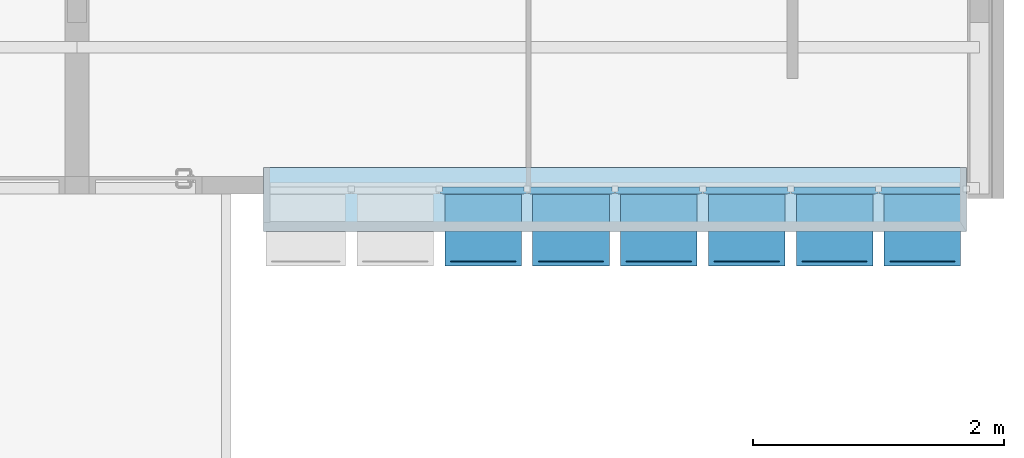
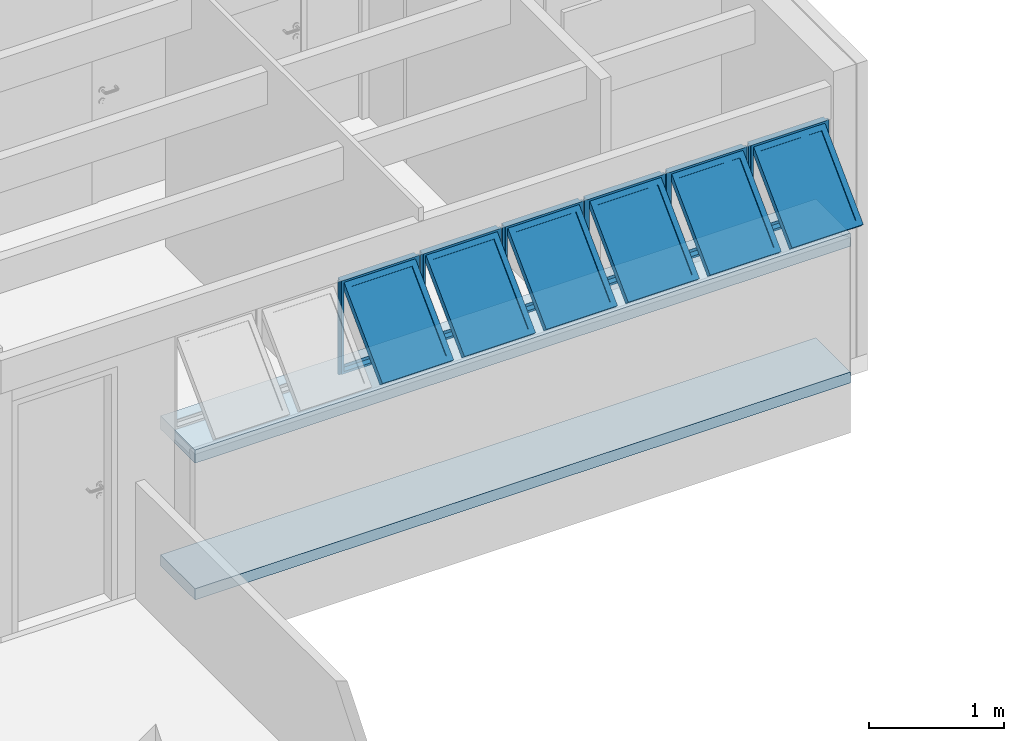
# One storey, part 13 of 40: 6 plates, 2 slabs, 1 element without a shape of its own.
"""IFC4 building model written with IfcOpenShell, lengths in millimetres."""

import ifcopenshell
import ifcopenshell.guid

model = None  # the IFC model being written
_history = None  # IfcOwnerHistory: only IFC2X3 demands one
_inside = {}  # id of a spatial element -> (the spatial element, [elements in it])
_under = {}  # id of a project, library or spatial element -> (it, [spatial elements below it])
_declared = {}  # id of a project -> (the project, [libraries it declares])
_typed = {}  # id of a type object -> (the type object, [elements of that type])
_made_of = {}  # id of a material, layer set ... -> (it, [elements and type objects made of it])


def new_model(schema):
    """Start an empty IFC model of exactly this schema.

    Asked for "IFC4X3", IfcOpenShell would pick the latest addendum, in which some entities
    have other attributes; the version numbers below select the first issue.
    IFC2X3 requires an IfcOwnerHistory on every rooted entity: one is made here for all.
    """
    global model, _history
    if schema == "IFC4X3":
        model = ifcopenshell.file(schema_version=(4, 3, 0, 0))
    else:
        model = ifcopenshell.file(schema=schema)
    _inside.clear()
    _under.clear()
    _declared.clear()
    _typed.clear()
    _made_of.clear()
    _history = None
    if model.schema == "IFC2X3":
        org = make("IfcOrganization", Name="unknown")
        user = make(
            "IfcPersonAndOrganization",
            ThePerson=make("IfcPerson", FamilyName="unknown"),
            TheOrganization=org,
        )
        app = make(
            "IfcApplication",
            ApplicationDeveloper=org,
            Version="unknown",
            ApplicationFullName="unknown",
            ApplicationIdentifier="unknown",
        )
        _history = make(
            "IfcOwnerHistory",
            OwningUser=user,
            OwningApplication=app,
            ChangeAction="ADDED",
            CreationDate=0,
        )
    return model


def make(cls, **values):
    """One entity of the class cls with the attributes given. An attribute that is None is left unset."""
    return model.create_entity(
        cls, **{name: value for name, value in values.items() if value is not None}
    )


def entity(cls, *values):
    """Any entity or typed value of the class cls, its attributes in the order of the schema. None: left unset."""
    e = model.create_entity(cls)
    for i, value in enumerate(values):
        if value is not None:
            e[i] = value
    return e


def rooted(cls, **values):
    """An entity with a GlobalId (a new one), such as an element, a storey or a relation."""
    return make(cls, GlobalId=ifcopenshell.guid.new(), OwnerHistory=_history, **values)


def si_unit(unit_type, name, prefix=None):
    """IfcSIUnit, for example si_unit("LENGTHUNIT", "METRE", prefix="MILLI")."""
    return make("IfcSIUnit", UnitType=unit_type, Prefix=prefix, Name=name)


def converted_unit(unit_type, name, factor, base, dimensions=None, offset=None):
    """IfcConversionBasedUnit, such as the inch: factor (a typed value) times the base unit."""
    return make(
        "IfcConversionBasedUnit"
        if offset is None
        else "IfcConversionBasedUnitWithOffset",
        ConversionOffset=offset,
        Dimensions=None
        if dimensions is None
        else entity("IfcDimensionalExponents", *dimensions),
        UnitType=unit_type,
        Name=name,
        ConversionFactor=make(
            "IfcMeasureWithUnit", ValueComponent=factor, UnitComponent=base
        ),
    )


def derived_unit(unit_type, elements):
    """IfcDerivedUnit: a product of units, each with its exponent."""
    return make(
        "IfcDerivedUnit",
        Elements=[
            make("IfcDerivedUnitElement", Unit=unit, Exponent=power)
            for unit, power in elements
        ],
        UnitType=unit_type,
    )


def assignment(units):
    """IfcUnitAssignment: the units of a project."""
    return None if units is None else make("IfcUnitAssignment", Units=units)


def point(xyz):
    """IfcCartesianPoint."""
    return None if xyz is None else make("IfcCartesianPoint", Coordinates=xyz)


def direction(xyz):
    """IfcDirection."""
    return None if xyz is None else make("IfcDirection", DirectionRatios=xyz)


def frame(location, z_axis=None, x_axis=None):
    """IfcAxis2Placement3D, a coordinate frame: its origin and axes. An axis left out is left unset."""
    return make(
        "IfcAxis2Placement3D",
        Location=point(location),
        Axis=direction(z_axis),
        RefDirection=direction(x_axis),
    )


def origin_with_axes():
    """The frame at (0, 0, 0) with the z axis (0, 0, 1) and the x axis (1, 0, 0) written out."""
    return frame((0.0, 0.0, 0.0), z_axis=(0.0, 0.0, 1.0), x_axis=(1.0, 0.0, 0.0))


def place(relative_to, where):
    """IfcLocalPlacement: puts the frame where relative to a parent placement (None: the world)."""
    return make(
        "IfcLocalPlacement", PlacementRelTo=relative_to, RelativePlacement=where
    )


def context(
    kind, dimensions, precision=None, world=None, true_north=None, identifier=None
):
    """IfcGeometricRepresentationContext, for example the 3D "Model" context."""
    return make(
        "IfcGeometricRepresentationContext",
        ContextIdentifier=identifier,
        ContextType=kind,
        CoordinateSpaceDimension=dimensions,
        Precision=precision,
        WorldCoordinateSystem=world,
        TrueNorth=true_north,
    )


def subcontext(parent, identifier, kind, view, scale=None):
    """IfcGeometricRepresentationSubContext, for example "Body" below "Model"."""
    return make(
        "IfcGeometricRepresentationSubContext",
        ContextIdentifier=identifier,
        ContextType=kind,
        ParentContext=parent,
        TargetScale=scale,
        TargetView=view,
    )


def project(units=None, contexts=None):
    """IfcProject with its units and contexts."""
    return rooted(
        "IfcProject",
        Name="project",
        RepresentationContexts=contexts,
        UnitsInContext=assignment(units),
    )


def spatial(cls, under=None, at=None, **own):
    """A site, building, storey or space (cls), placed at a placement, below another one or the project."""
    s = rooted(cls, ObjectPlacement=at, **own)
    if under is not None:
        _under.setdefault(under.id(), (under, []))[1].append(s)
    return s


def point_list(points):
    """IfcCartesianPointList2D or 3D."""
    cls = (
        "IfcCartesianPointList2D" if len(points[0]) == 2 else "IfcCartesianPointList3D"
    )
    return make(cls, CoordList=points)


def line(*indices):
    """IfcLineIndex: a straight run through numbered points of an indexed curve."""
    return model.create_entity("IfcLineIndex", indices)


def indexed_curve(points, segments=None, self_intersect=None):
    """IfcIndexedPolyCurve: lines and arcs through numbered points (the first is 1)."""
    return make(
        "IfcIndexedPolyCurve",
        Points=point_list(points),
        Segments=segments,
        SelfIntersect=self_intersect,
    )


def outline(outer, holes=None, kind="AREA"):
    """IfcArbitraryClosedProfileDef: a profile drawn as a closed curve; with holes, ...WithVoids."""
    if holes is None:
        return make("IfcArbitraryClosedProfileDef", ProfileType=kind, OuterCurve=outer)
    return make(
        "IfcArbitraryProfileDefWithVoids",
        ProfileType=kind,
        OuterCurve=outer,
        InnerCurves=holes,
    )


def extrude(swept, where, along, depth):
    """IfcExtrudedAreaSolid: the profile swept, set in the frame where, extruded along a direction by depth."""
    return make(
        "IfcExtrudedAreaSolid",
        SweptArea=swept,
        Position=where,
        ExtrudedDirection=direction(along),
        Depth=depth,
    )


def polygons(points, faces, closed=None, point_numbers=None):
    """IfcPolygonalFaceSet: a face is its outer loop, then its inner loops; points numbered from 1."""
    made = []
    for loops in faces:
        if len(loops) == 1:
            made.append(make("IfcIndexedPolygonalFace", CoordIndex=loops[0]))
        else:
            made.append(
                make(
                    "IfcIndexedPolygonalFaceWithVoids",
                    CoordIndex=loops[0],
                    InnerCoordIndices=loops[1:],
                )
            )
    return make(
        "IfcPolygonalFaceSet",
        Coordinates=point_list(points),
        Closed=closed,
        Faces=made,
        PnIndex=point_numbers,
    )


def shape(context_of_items, identifier, shape_type, items):
    """IfcShapeRepresentation: the items that make up one representation, for example the "Body"."""
    return make(
        "IfcShapeRepresentation",
        ContextOfItems=context_of_items,
        RepresentationIdentifier=identifier,
        RepresentationType=shape_type,
        Items=items,
    )


def source(mapping_origin, context_of_items, identifier, shape_type, items):
    """IfcRepresentationMap: a shape defined once, which mapped items show again and again."""
    return make(
        "IfcRepresentationMap",
        MappingOrigin=mapping_origin,
        MappedRepresentation=shape(context_of_items, identifier, shape_type, items),
    )


def transform(
    local_origin,
    x_axis=None,
    y_axis=None,
    z_axis=None,
    scale=None,
    scale2=None,
    scale3=None,
    uniform=True,
):
    """IfcCartesianTransformationOperator3D, or its non-uniform kind. x_axis, y_axis, z_axis: its Axis1, 2, 3."""
    if uniform:
        return make(
            "IfcCartesianTransformationOperator3D",
            Axis1=direction(x_axis),
            Axis2=direction(y_axis),
            LocalOrigin=point(local_origin),
            Scale=scale,
            Axis3=direction(z_axis),
        )
    return make(
        "IfcCartesianTransformationOperator3DnonUniform",
        Axis1=direction(x_axis),
        Axis2=direction(y_axis),
        LocalOrigin=point(local_origin),
        Scale=scale,
        Axis3=direction(z_axis),
        Scale2=scale2,
        Scale3=scale3,
    )


def mapped(mapping_source, mapping_target):
    """IfcMappedItem: shows the shape of a source again, moved by a transform."""
    return make(
        "IfcMappedItem", MappingSource=mapping_source, MappingTarget=mapping_target
    )


def material(Name=None, Category=None):
    """IfcMaterial."""
    return make("IfcMaterial", Name=Name, Category=Category)


def layer(
    of_material, thickness, ventilated=None, Name=None, Category=None, Priority=None
):
    """IfcMaterialLayer: one layer of a wall or slab, of a material (None: an air gap)."""
    return make(
        "IfcMaterialLayer",
        Material=of_material,
        LayerThickness=thickness,
        IsVentilated=ventilated,
        Name=Name,
        Category=Category,
        Priority=Priority,
    )


def layer_set(layers, Name=None):
    """IfcMaterialLayerSet."""
    return make("IfcMaterialLayerSet", MaterialLayers=layers, LayerSetName=Name)


def layer_usage(for_layer_set, set_direction, sense, offset, extent=None):
    """IfcMaterialLayerSetUsage: how a layer set lies in its element."""
    return make(
        "IfcMaterialLayerSetUsage",
        ForLayerSet=for_layer_set,
        LayerSetDirection=set_direction,
        DirectionSense=sense,
        OffsetFromReferenceLine=offset,
        ReferenceExtent=extent,
    )


def constituent(of_material, Name=None, Category=None, fraction=None):
    """IfcMaterialConstituent: one of the materials an element consists of."""
    return make(
        "IfcMaterialConstituent",
        Name=Name,
        Material=of_material,
        Fraction=fraction,
        Category=Category,
    )


def constituent_set(constituents=None, Name=None):
    """IfcMaterialConstituentSet."""
    return make(
        "IfcMaterialConstituentSet", Name=Name, MaterialConstituents=constituents
    )


def made_of(thing, what):
    """Note that an element or type object is made of a material, layer set ...; save() writes the relation."""
    if what is not None:
        _made_of.setdefault(what.id(), (what, []))[1].append(thing)
    return thing


def type_object(cls, material=None, **own):
    """A type object (cls), such as IfcWallType, which elements share."""
    return made_of(rooted(cls, **own), material)


def element(
    cls,
    number,
    at=None,
    inside=None,
    cuts=None,
    type_object=None,
    material=None,
    context=None,
    identifier="Body",
    shape_type=None,
    held_by="IfcProductDefinitionShape",
    body=None,
    shapes=None,
    **own,
):
    """One element of the class cls, such as IfcWall. Its Tag is "e" and its number.

    at: its placement. inside: the storey or other place that contains it. cuts: it is an
    opening in that element (IfcRelVoidsElement). A single representation is given by context,
    identifier, shape_type and body (its items); several are given by shapes. held_by: the class
    of the entity that holds the representations. save() writes the other relations.
    """
    e = rooted(cls, Tag="e%d" % number, ObjectPlacement=at, **own)
    if body is not None:
        shapes = [shape(context, identifier, shape_type, body)]
    if shapes is not None:
        e.Representation = make(held_by, Representations=shapes)
    if inside is not None:
        _inside.setdefault(inside.id(), (inside, []))[1].append(e)
    if cuts is not None:
        rooted(
            "IfcRelVoidsElement", RelatingBuildingElement=cuts, RelatedOpeningElement=e
        )
    if type_object is not None:
        _typed.setdefault(type_object.id(), (type_object, []))[1].append(e)
    return made_of(e, material)


def aggregate(whole, parts):
    """IfcRelAggregates: a whole, such as a stair, and the parts it consists of."""
    return rooted("IfcRelAggregates", RelatingObject=whole, RelatedObjects=parts)


def save(model, path):
    """Write the relations noted so far, then the file.

    IfcRelAggregates (storeys below a building ...), IfcRelContainedInSpatialStructure (elements
    in a storey), IfcRelDefinesByType, IfcRelAssociatesMaterial and IfcRelDeclares: one each for
    every whole, place, type object, material and project.
    """
    for whole, parts in _under.values():
        aggregate(whole, parts)
    for where, things in _inside.values():
        rooted(
            "IfcRelContainedInSpatialStructure",
            RelatedElements=things,
            RelatingStructure=where,
        )
    for kind, things in _typed.values():
        rooted("IfcRelDefinesByType", RelatedObjects=things, RelatingType=kind)
    for what, things in _made_of.values():
        rooted("IfcRelAssociatesMaterial", RelatedObjects=things, RelatingMaterial=what)
    for by, libraries in _declared.values():
        rooted("IfcRelDeclares", RelatingContext=by, RelatedDefinitions=libraries)
    model.write(path)


model = new_model("IFC4")

# Units and contexts
model_context = context("Model", 3, precision=0.01, world=origin_with_axes(), true_north=direction((0.0, 1.0)))
body_context = subcontext(model_context, "Body", "Model", "MODEL_VIEW")
ifc_project = project(units=[si_unit("LENGTHUNIT", "METRE", prefix="MILLI"), si_unit("AREAUNIT", "SQUARE_METRE"), si_unit("VOLUMEUNIT", "CUBIC_METRE"), converted_unit("PLANEANGLEUNIT", "DEGREE", entity("IfcPlaneAngleMeasure", 0.0174532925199), si_unit("PLANEANGLEUNIT", "RADIAN"), dimensions=[0, 0, 0, 0, 0, 0, 0]), converted_unit("TIMEUNIT", "Year", entity("IfcTimeMeasure", 31556926.0), si_unit("TIMEUNIT", "SECOND"), dimensions=[0, 0, 1, 0, 0, 0, 0]), si_unit("MASSUNIT", "GRAM", prefix="KILO"), si_unit("THERMODYNAMICTEMPERATUREUNIT", "DEGREE_CELSIUS"), si_unit("LUMINOUSINTENSITYUNIT", "LUMEN"), si_unit("ENERGYUNIT", "JOULE", prefix="MEGA"), derived_unit("THERMALCONDUCTANCEUNIT", [(si_unit("POWERUNIT", "WATT"), 1), (si_unit("LENGTHUNIT", "METRE"), -1), (si_unit("THERMODYNAMICTEMPERATUREUNIT", "KELVIN"), -1)]), derived_unit("SPECIFICHEATCAPACITYUNIT", [(si_unit("ENERGYUNIT", "JOULE"), 1), (si_unit("MASSUNIT", "GRAM", prefix="KILO"), -1), (si_unit("THERMODYNAMICTEMPERATUREUNIT", "KELVIN"), -1)]), derived_unit("MASSDENSITYUNIT", [(si_unit("MASSUNIT", "GRAM", prefix="KILO"), 1), (si_unit("VOLUMEUNIT", "CUBIC_METRE"), -1)])], contexts=[model_context])

# Site, building, storey
site_placement = place(None, origin_with_axes())
site = spatial("IfcSite", under=ifc_project, at=site_placement, Name="Local", CompositionType="ELEMENT")
building_placement = place(site_placement, origin_with_axes())
building = spatial("IfcBuilding", under=site, at=building_placement, Name="Construção", CompositionType="ELEMENT")
storey_placement = place(building_placement, frame((0.0, 0.0, 5300.0), z_axis=(0.0, 0.0, 1.0), x_axis=(1.0, 0.0, 0.0)))
storey = spatial("IfcBuildingStorey", under=building, at=storey_placement, Name="Terceiro Pavimento", CompositionType="ELEMENT", Elevation=5300.0)

# Slabs
ifc_material_1 = material(Name="Concreto Armado Moldado in Loco - Estrutural")
ifc_layer_1 = layer(ifc_material_1, 120.0, ventilated="UNKNOWN", Name="Concreto Armado Moldado in Loco - Estrutural")
ifc_layer_set_1 = layer_set([ifc_layer_1], Name="Concreto Armado Moldado in Loco - Estrutural 120")
ifc_layer_usage_1 = layer_usage(ifc_layer_set_1, "AXIS3", "NEGATIVE", 120.0)
slab_type_1 = type_object("IfcSlabType", Name="Concreto Armado Moldado in Loco - Estrutural 120", PredefinedType="FLOOR")
slab_1_placement = place(storey_placement, frame((14470.0, 17595.0000013, 1355.0), z_axis=(0.0, 0.0, 1.0), x_axis=(1.0, 0.0, 0.0)))
element("IfcSlab", 1, at=slab_1_placement, inside=storey, type_object=slab_type_1, material=ifc_layer_usage_1, Name="APTO12-LAJE-003", PredefinedType="FLOOR", context=body_context, shape_type="SweptSolid", body=[
    extrude(outline(indexed_curve([(0.0, 0.0), (0.0, 510.0), (-5600.0, 510.0), (-5600.0, 0.0)], segments=[line(1, 2, 3, 4, 1)])), frame((0.0, 0.0, -120.0), z_axis=(0.0, 0.0, 1.0), x_axis=(1.0, 0.0, 0.0)), (0.0, 0.0, 1.0), 120.0),
])
ifc_layer_2 = layer(ifc_material_1, 100.0, ventilated="UNKNOWN", Name="Concreto Armado Moldado in Loco - Estrutural")
ifc_layer_set_2 = layer_set([ifc_layer_2], Name="Concreto Armado Moldado in Loco - Estrutural 100")
ifc_layer_usage_2 = layer_usage(ifc_layer_set_2, "AXIS3", "NEGATIVE", 100.0)
slab_type_2 = type_object("IfcSlabType", Name="Concreto Armado Moldado in Loco - Estrutural 100", PredefinedType="FLOOR")
slab_2_placement = place(storey_placement, frame((14470.0, 17595.0000013, 100.0), z_axis=(0.0, 0.0, 1.0), x_axis=(1.0, 0.0, 0.0)))
element("IfcSlab", 2, at=slab_2_placement, inside=storey, type_object=slab_type_2, material=ifc_layer_usage_2, Name="APTO12-LAJE-004", PredefinedType="FLOOR", context=body_context, shape_type="SweptSolid", body=[
    extrude(outline(indexed_curve([(0.0, 0.0), (0.0, 510.0), (-5600.0, 510.0), (-5600.0, 0.0)], segments=[line(1, 2, 3, 4, 1)])), frame((0.0, 0.0, -100.0), z_axis=(0.0, 0.0, 1.0), x_axis=(1.0, 0.0, 0.0)), (0.0, 0.0, 1.0), 100.0),
])

# Window, plates
window_type = type_object("IfcWindowType", Name="Tipo de Parede Cortina", PartitioningType="NOTDEFINED", PredefinedType="NOTDEFINED")
window_placement = place(storey_placement, frame((12020.0, 17910.0, 1355.00007107), z_axis=(0.0, 0.0, 1.0), x_axis=(1.0, 0.0, 0.0)))
window = element("IfcWindow", 3, at=window_placement, inside=storey, type_object=window_type, Name="APTO12-JANELA-000", PredefinedType="NOTDEFINED")
ifc_material_2 = material(Name="Alumínio")
ifc_constituent_1 = constituent(ifc_material_2, Name="Alumínio")
ifc_material_3 = material(Name="Vidro")
ifc_constituent_2 = constituent(ifc_material_3, Name="Vidro")
ifc_constituent_set_1 = constituent_set(constituents=[ifc_constituent_1, ifc_constituent_2])
plate_type = type_object("IfcPlateType", Name="Painel Principal 690 x 845 x 20", PredefinedType="CURTAIN_PANEL")
shared_shape_1 = source(origin_with_axes(), body_context, "Body", "Tessellation", [
    polygons([(-25.0000036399, 0.0, -40.0), (-25.0000036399, 0.0, -35.0), (-674.999997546, 0.0, -35.0), (-674.999997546, 0.0, -40.0), (-70.0000036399, 45.0, -40.0), (-70.0000036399, 45.0, -35.0), (-629.999997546, 45.0, -35.0), (-629.999997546, 45.0, -40.0)], [[[1, 2, 3, 4]], [[5, 6, 2, 1]], [[2, 6, 7, 3]], [[4, 3, 7, 8]], [[1, 4, 8, 5]], [[8, 7, 6, 5]]], closed=True),
    polygons([(-674.999997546, 0.0, -40.0), (-674.999997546, 0.0, -35.0), (-674.999997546, 844.999891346, -35.0), (-674.999997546, 844.999891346, -40.0), (-629.999997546, 45.0, -40.0), (-629.999997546, 45.0, -35.0), (-629.999997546, 799.999891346, -35.0), (-629.999997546, 799.999891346, -40.0)], [[[1, 2, 3, 4]], [[5, 6, 2, 1]], [[2, 6, 7, 3]], [[4, 3, 7, 8]], [[1, 4, 8, 5]], [[8, 7, 6, 5]]], closed=True),
    polygons([(-25.0000036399, 844.999891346, -40.0), (-25.0000036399, 844.999891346, -35.0), (-70.0000036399, 799.999891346, -35.0), (-70.0000036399, 799.999891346, -40.0), (-674.999997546, 844.999891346, -40.0), (-674.999997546, 844.999891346, -35.0), (-629.999997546, 799.999891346, -35.0), (-629.999997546, 799.999891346, -40.0)], [[[1, 2, 3, 4]], [[5, 6, 2, 1]], [[2, 6, 7, 3]], [[4, 3, 7, 8]], [[1, 4, 8, 5]], [[8, 7, 6, 5]]], closed=True),
    polygons([(-25.0000036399, 0.0, -40.0), (-25.0000036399, 0.0, -35.0), (-70.0000036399, 45.0, -35.0), (-70.0000036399, 45.0, -40.0), (-25.0000036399, 844.999891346, -40.0), (-25.0000036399, 844.999891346, -35.0), (-70.0000036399, 799.999891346, -35.0), (-70.0000036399, 799.999891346, -40.0)], [[[1, 2, 3, 4]], [[5, 6, 2, 1]], [[2, 6, 7, 3]], [[4, 3, 7, 8]], [[1, 4, 8, 5]], [[8, 7, 6, 5]]], closed=True),
    polygons([(-25.0000036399, 0.0, -35.0), (-25.0000036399, 0.0, 15.0), (-674.999997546, 0.0, 15.0), (-674.999997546, 0.0, -35.0), (-45.0000036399, 20.0, -35.0), (-45.0000036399, 20.0, 15.0), (-654.999997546, 20.0, 15.0), (-654.999997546, 20.0, -35.0)], [[[1, 2, 3, 4]], [[5, 6, 2, 1]], [[2, 6, 7, 3]], [[4, 3, 7, 8]], [[1, 4, 8, 5]], [[8, 7, 6, 5]]], closed=True),
    polygons([(-674.999997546, 0.0, -35.0), (-674.999997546, 0.0, 15.0), (-674.999997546, 844.999891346, 15.0), (-674.999997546, 844.999891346, -35.0), (-654.999997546, 20.0, -35.0), (-654.999997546, 20.0, 15.0), (-654.999997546, 824.999891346, 15.0), (-654.999997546, 824.999891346, -35.0)], [[[1, 2, 3, 4]], [[5, 6, 2, 1]], [[2, 6, 7, 3]], [[4, 3, 7, 8]], [[1, 4, 8, 5]], [[8, 7, 6, 5]]], closed=True),
    polygons([(-25.0000036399, 844.999891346, -35.0), (-25.0000036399, 844.999891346, 15.0), (-45.0000036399, 824.999891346, 15.0), (-45.0000036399, 824.999891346, -35.0), (-674.999997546, 844.999891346, -35.0), (-674.999997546, 844.999891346, 15.0), (-654.999997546, 824.999891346, 15.0), (-654.999997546, 824.999891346, -35.0)], [[[1, 2, 3, 4]], [[5, 6, 2, 1]], [[2, 6, 7, 3]], [[4, 3, 7, 8]], [[1, 4, 8, 5]], [[8, 7, 6, 5]]], closed=True),
    polygons([(-25.0000036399, 0.0, -35.0), (-25.0000036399, 0.0, 15.0), (-45.0000036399, 20.0, 15.0), (-45.0000036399, 20.0, -35.0), (-25.0000036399, 844.999891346, -35.0), (-25.0000036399, 844.999891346, 15.0), (-45.0000036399, 824.999891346, 15.0), (-45.0000036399, 824.999891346, -35.0)], [[[1, 2, 3, 4]], [[5, 6, 2, 1]], [[2, 6, 7, 3]], [[4, 3, 7, 8]], [[1, 4, 8, 5]], [[8, 7, 6, 5]]], closed=True),
    polygons([(-694.999995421, 0.0, -10.0), (-694.999995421, 0.0, 10.0), (-694.999995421, 844.999891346, 10.0), (-694.999995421, 844.999891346, -10.0), (-674.999997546, 0.0, -10.0), (-674.999997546, 0.0, 10.0), (-674.999997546, 844.999891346, 10.0), (-674.999997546, 844.999891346, -10.0)], [[[1, 2, 3, 4]], [[5, 6, 2, 1]], [[2, 6, 7, 3]], [[4, 3, 7, 8]], [[1, 4, 8, 5]], [[8, 7, 6, 5]]], closed=True),
    polygons([(-5.00000576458, 844.999891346, -10.0), (-5.00000576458, 844.999891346, 10.0), (-5.00000576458, 0.0, 10.0), (-5.00000576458, 0.0, -10.0), (-25.0000036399, 844.999891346, -10.0), (-25.0000036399, 844.999891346, 10.0), (-25.0000036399, 0.0, 10.0), (-25.0000036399, 0.0, -10.0)], [[[1, 2, 3, 4]], [[5, 6, 2, 1]], [[2, 6, 7, 3]], [[4, 3, 7, 8]], [[1, 4, 8, 5]], [[8, 7, 6, 5]]], closed=True),
    polygons([(-90.0000036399, 252.243475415, 517.045737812), (-90.0000036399, 291.13434838, 555.936610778), (-90.0000036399, 796.715620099, 50.3553390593), (-90.0000036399, 757.824747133, 11.4644660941), (-45.0000036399, 220.423670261, 548.865542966), (-45.0000036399, 259.314543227, 587.756415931), (-45.0000036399, 828.535425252, 18.5355339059), (-45.0000036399, 789.644552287, -20.3553390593)], [[[1, 2, 3, 4]], [[5, 6, 2, 1]], [[2, 6, 7, 3]], [[4, 3, 7, 8]], [[1, 4, 8, 5]], [[8, 7, 6, 5]]], closed=True),
    polygons([(-654.999997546, 220.423670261, 548.865542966), (-654.999997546, 259.314543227, 587.756415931), (-654.999997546, 828.535425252, 18.5355339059), (-654.999997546, 789.644552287, -20.3553390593), (-609.999997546, 252.243475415, 517.045737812), (-609.999997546, 291.13434838, 555.936610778), (-609.999997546, 796.715620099, 50.3553390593), (-609.999997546, 757.824747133, 11.4644660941)], [[[1, 2, 3, 4]], [[5, 6, 2, 1]], [[2, 6, 7, 3]], [[4, 3, 7, 8]], [[1, 4, 8, 5]], [[8, 7, 6, 5]]], closed=True),
    polygons([(-654.999997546, 220.423670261, 548.865542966), (-654.999997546, 259.314543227, 587.756415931), (-609.999997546, 291.13434838, 555.936610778), (-609.999997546, 252.243475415, 517.045737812), (-45.0000036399, 220.423670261, 548.865542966), (-45.0000036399, 259.314543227, 587.756415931), (-90.0000036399, 291.13434838, 555.936610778), (-90.0000036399, 252.243475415, 517.045737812)], [[[1, 2, 3, 4]], [[5, 6, 2, 1]], [[2, 6, 7, 3]], [[4, 3, 7, 8]], [[1, 4, 8, 5]], [[8, 7, 6, 5]]], closed=True),
    polygons([(-45.0000036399, 789.644552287, -20.3553390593), (-45.0000036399, 828.535425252, 18.5355339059), (-90.0000036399, 796.715620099, 50.3553390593), (-90.0000036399, 757.824747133, 11.4644660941), (-654.999997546, 789.644552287, -20.3553390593), (-654.999997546, 828.535425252, 18.5355339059), (-609.999997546, 796.715620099, 50.3553390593), (-609.999997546, 757.824747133, 11.4644660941)], [[[1, 2, 3, 4]], [[5, 6, 2, 1]], [[2, 6, 7, 3]], [[4, 3, 7, 8]], [[1, 4, 8, 5]], [[8, 7, 6, 5]]], closed=True),
    polygons([(-90.0000036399, 272.749572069, 537.551834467), (-90.0000036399, 284.063280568, 548.865542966), (-609.999997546, 284.063280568, 548.865542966), (-609.999997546, 272.749572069, 537.551834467), (-90.0000036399, 778.330843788, 31.9705627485), (-90.0000036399, 789.644552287, 43.2842712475), (-609.999997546, 789.644552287, 43.2842712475), (-609.999997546, 778.330843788, 31.9705627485)], [[[1, 2, 3, 4]], [[5, 6, 2, 1]], [[2, 6, 7, 3]], [[4, 3, 7, 8]], [[1, 4, 8, 5]], [[8, 7, 6, 5]]], closed=True),
])
plate_1_placement = place(window_placement, frame((0.0, 0.0, 422.499964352), z_axis=(0.0, 0.0, 1.0), x_axis=(1.0, 0.0, 0.0)))
plate_1 = element("IfcPlate", 4, at=plate_1_placement, type_object=plate_type, material=ifc_constituent_set_1, Name="APTO12-Painel-Prin-013", PredefinedType="CURTAIN_PANEL", context=body_context, shape_type="MappedRepresentation", body=[
    mapped(shared_shape_1, transform((350.0, 0.0, -422.499964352), x_axis=(1.0, 0.0, 0.0), y_axis=(0.0, 0.0, 1.0), z_axis=(0.0, -1.0, 0.0))),
])
ifc_constituent_3 = constituent(ifc_material_2, Name="Alumínio")
ifc_constituent_4 = constituent(ifc_material_3, Name="Vidro")
ifc_constituent_set_2 = constituent_set(constituents=[ifc_constituent_3, ifc_constituent_4])
shared_shape_2 = source(origin_with_axes(), body_context, "Body", "Tessellation", [
    polygons([(-25.0000036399, 0.0, -40.0), (-25.0000036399, 0.0, -35.0), (-674.999997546, 0.0, -35.0), (-674.999997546, 0.0, -40.0), (-70.0000036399, 45.0, -40.0), (-70.0000036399, 45.0, -35.0), (-629.999997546, 45.0, -35.0), (-629.999997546, 45.0, -40.0)], [[[1, 2, 3, 4]], [[5, 6, 2, 1]], [[2, 6, 7, 3]], [[4, 3, 7, 8]], [[1, 4, 8, 5]], [[8, 7, 6, 5]]], closed=True),
    polygons([(-674.999997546, 0.0, -40.0), (-674.999997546, 0.0, -35.0), (-674.999997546, 844.999891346, -35.0), (-674.999997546, 844.999891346, -40.0), (-629.999997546, 45.0, -40.0), (-629.999997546, 45.0, -35.0), (-629.999997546, 799.999891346, -35.0), (-629.999997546, 799.999891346, -40.0)], [[[1, 2, 3, 4]], [[5, 6, 2, 1]], [[2, 6, 7, 3]], [[4, 3, 7, 8]], [[1, 4, 8, 5]], [[8, 7, 6, 5]]], closed=True),
    polygons([(-25.0000036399, 844.999891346, -40.0), (-25.0000036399, 844.999891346, -35.0), (-70.0000036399, 799.999891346, -35.0), (-70.0000036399, 799.999891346, -40.0), (-674.999997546, 844.999891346, -40.0), (-674.999997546, 844.999891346, -35.0), (-629.999997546, 799.999891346, -35.0), (-629.999997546, 799.999891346, -40.0)], [[[1, 2, 3, 4]], [[5, 6, 2, 1]], [[2, 6, 7, 3]], [[4, 3, 7, 8]], [[1, 4, 8, 5]], [[8, 7, 6, 5]]], closed=True),
    polygons([(-25.0000036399, 0.0, -40.0), (-25.0000036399, 0.0, -35.0), (-70.0000036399, 45.0, -35.0), (-70.0000036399, 45.0, -40.0), (-25.0000036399, 844.999891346, -40.0), (-25.0000036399, 844.999891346, -35.0), (-70.0000036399, 799.999891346, -35.0), (-70.0000036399, 799.999891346, -40.0)], [[[1, 2, 3, 4]], [[5, 6, 2, 1]], [[2, 6, 7, 3]], [[4, 3, 7, 8]], [[1, 4, 8, 5]], [[8, 7, 6, 5]]], closed=True),
    polygons([(-25.0000036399, 0.0, -35.0), (-25.0000036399, 0.0, 15.0), (-674.999997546, 0.0, 15.0), (-674.999997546, 0.0, -35.0), (-45.0000036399, 20.0, -35.0), (-45.0000036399, 20.0, 15.0), (-654.999997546, 20.0, 15.0), (-654.999997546, 20.0, -35.0)], [[[1, 2, 3, 4]], [[5, 6, 2, 1]], [[2, 6, 7, 3]], [[4, 3, 7, 8]], [[1, 4, 8, 5]], [[8, 7, 6, 5]]], closed=True),
    polygons([(-674.999997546, 0.0, -35.0), (-674.999997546, 0.0, 15.0), (-674.999997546, 844.999891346, 15.0), (-674.999997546, 844.999891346, -35.0), (-654.999997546, 20.0, -35.0), (-654.999997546, 20.0, 15.0), (-654.999997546, 824.999891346, 15.0), (-654.999997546, 824.999891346, -35.0)], [[[1, 2, 3, 4]], [[5, 6, 2, 1]], [[2, 6, 7, 3]], [[4, 3, 7, 8]], [[1, 4, 8, 5]], [[8, 7, 6, 5]]], closed=True),
    polygons([(-25.0000036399, 844.999891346, -35.0), (-25.0000036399, 844.999891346, 15.0), (-45.0000036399, 824.999891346, 15.0), (-45.0000036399, 824.999891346, -35.0), (-674.999997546, 844.999891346, -35.0), (-674.999997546, 844.999891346, 15.0), (-654.999997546, 824.999891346, 15.0), (-654.999997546, 824.999891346, -35.0)], [[[1, 2, 3, 4]], [[5, 6, 2, 1]], [[2, 6, 7, 3]], [[4, 3, 7, 8]], [[1, 4, 8, 5]], [[8, 7, 6, 5]]], closed=True),
    polygons([(-25.0000036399, 0.0, -35.0), (-25.0000036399, 0.0, 15.0), (-45.0000036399, 20.0, 15.0), (-45.0000036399, 20.0, -35.0), (-25.0000036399, 844.999891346, -35.0), (-25.0000036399, 844.999891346, 15.0), (-45.0000036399, 824.999891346, 15.0), (-45.0000036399, 824.999891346, -35.0)], [[[1, 2, 3, 4]], [[5, 6, 2, 1]], [[2, 6, 7, 3]], [[4, 3, 7, 8]], [[1, 4, 8, 5]], [[8, 7, 6, 5]]], closed=True),
    polygons([(-694.999995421, 0.0, -10.0), (-694.999995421, 0.0, 10.0), (-694.999995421, 844.999891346, 10.0), (-694.999995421, 844.999891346, -10.0), (-674.999997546, 0.0, -10.0), (-674.999997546, 0.0, 10.0), (-674.999997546, 844.999891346, 10.0), (-674.999997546, 844.999891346, -10.0)], [[[1, 2, 3, 4]], [[5, 6, 2, 1]], [[2, 6, 7, 3]], [[4, 3, 7, 8]], [[1, 4, 8, 5]], [[8, 7, 6, 5]]], closed=True),
    polygons([(-5.00000576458, 844.999891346, -10.0), (-5.00000576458, 844.999891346, 10.0), (-5.00000576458, 0.0, 10.0), (-5.00000576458, 0.0, -10.0), (-25.0000036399, 844.999891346, -10.0), (-25.0000036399, 844.999891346, 10.0), (-25.0000036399, 0.0, 10.0), (-25.0000036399, 0.0, -10.0)], [[[1, 2, 3, 4]], [[5, 6, 2, 1]], [[2, 6, 7, 3]], [[4, 3, 7, 8]], [[1, 4, 8, 5]], [[8, 7, 6, 5]]], closed=True),
    polygons([(-90.0000036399, 252.243475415, 517.045737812), (-90.0000036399, 291.13434838, 555.936610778), (-90.0000036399, 796.715620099, 50.3553390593), (-90.0000036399, 757.824747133, 11.4644660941), (-45.0000036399, 220.423670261, 548.865542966), (-45.0000036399, 259.314543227, 587.756415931), (-45.0000036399, 828.535425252, 18.5355339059), (-45.0000036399, 789.644552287, -20.3553390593)], [[[1, 2, 3, 4]], [[5, 6, 2, 1]], [[2, 6, 7, 3]], [[4, 3, 7, 8]], [[1, 4, 8, 5]], [[8, 7, 6, 5]]], closed=True),
    polygons([(-654.999997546, 220.423670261, 548.865542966), (-654.999997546, 259.314543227, 587.756415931), (-654.999997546, 828.535425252, 18.5355339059), (-654.999997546, 789.644552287, -20.3553390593), (-609.999997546, 252.243475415, 517.045737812), (-609.999997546, 291.13434838, 555.936610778), (-609.999997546, 796.715620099, 50.3553390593), (-609.999997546, 757.824747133, 11.4644660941)], [[[1, 2, 3, 4]], [[5, 6, 2, 1]], [[2, 6, 7, 3]], [[4, 3, 7, 8]], [[1, 4, 8, 5]], [[8, 7, 6, 5]]], closed=True),
    polygons([(-654.999997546, 220.423670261, 548.865542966), (-654.999997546, 259.314543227, 587.756415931), (-609.999997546, 291.13434838, 555.936610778), (-609.999997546, 252.243475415, 517.045737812), (-45.0000036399, 220.423670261, 548.865542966), (-45.0000036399, 259.314543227, 587.756415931), (-90.0000036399, 291.13434838, 555.936610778), (-90.0000036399, 252.243475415, 517.045737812)], [[[1, 2, 3, 4]], [[5, 6, 2, 1]], [[2, 6, 7, 3]], [[4, 3, 7, 8]], [[1, 4, 8, 5]], [[8, 7, 6, 5]]], closed=True),
    polygons([(-45.0000036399, 789.644552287, -20.3553390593), (-45.0000036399, 828.535425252, 18.5355339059), (-90.0000036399, 796.715620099, 50.3553390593), (-90.0000036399, 757.824747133, 11.4644660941), (-654.999997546, 789.644552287, -20.3553390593), (-654.999997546, 828.535425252, 18.5355339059), (-609.999997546, 796.715620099, 50.3553390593), (-609.999997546, 757.824747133, 11.4644660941)], [[[1, 2, 3, 4]], [[5, 6, 2, 1]], [[2, 6, 7, 3]], [[4, 3, 7, 8]], [[1, 4, 8, 5]], [[8, 7, 6, 5]]], closed=True),
    polygons([(-90.0000036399, 272.749572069, 537.551834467), (-90.0000036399, 284.063280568, 548.865542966), (-609.999997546, 284.063280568, 548.865542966), (-609.999997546, 272.749572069, 537.551834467), (-90.0000036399, 778.330843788, 31.9705627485), (-90.0000036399, 789.644552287, 43.2842712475), (-609.999997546, 789.644552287, 43.2842712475), (-609.999997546, 778.330843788, 31.9705627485)], [[[1, 2, 3, 4]], [[5, 6, 2, 1]], [[2, 6, 7, 3]], [[4, 3, 7, 8]], [[1, 4, 8, 5]], [[8, 7, 6, 5]]], closed=True),
])
plate_2_placement = place(window_placement, frame((2100.0, 0.0, 422.499998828), z_axis=(0.0, 0.0, 1.0), x_axis=(1.0, 0.0, 0.0)))
plate_2 = element("IfcPlate", 5, at=plate_2_placement, type_object=plate_type, material=ifc_constituent_set_2, Name="APTO12-Painel-Prin-013", PredefinedType="CURTAIN_PANEL", context=body_context, shape_type="MappedRepresentation", body=[
    mapped(shared_shape_2, transform((350.0, 0.0, -422.499998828), x_axis=(1.0, 0.0, 0.0), y_axis=(0.0, 0.0, 1.0), z_axis=(0.0, -1.0, 0.0))),
])
ifc_constituent_5 = constituent(ifc_material_2, Name="Alumínio")
ifc_constituent_6 = constituent(ifc_material_3, Name="Vidro")
ifc_constituent_set_3 = constituent_set(constituents=[ifc_constituent_5, ifc_constituent_6])
plate_3_placement = place(window_placement, frame((1400.0, 0.0, 422.499964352), z_axis=(0.0, 0.0, 1.0), x_axis=(1.0, 0.0, 0.0)))
plate_3 = element("IfcPlate", 6, at=plate_3_placement, type_object=plate_type, material=ifc_constituent_set_3, Name="APTO12-Painel-Prin-013", PredefinedType="CURTAIN_PANEL", context=body_context, shape_type="MappedRepresentation", body=[
    mapped(shared_shape_2, transform((350.0, 0.0, -422.499964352), x_axis=(1.0, 0.0, 0.0), y_axis=(0.0, 0.0, 1.0), z_axis=(0.0, -1.0, 0.0))),
])
ifc_constituent_7 = constituent(ifc_material_2, Name="Alumínio")
ifc_constituent_8 = constituent(ifc_material_3, Name="Vidro")
ifc_constituent_set_4 = constituent_set(constituents=[ifc_constituent_7, ifc_constituent_8])
plate_4_placement = place(window_placement, frame((-1400.0, 0.0, 422.499964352), z_axis=(0.0, 0.0, 1.0), x_axis=(1.0, 0.0, 0.0)))
plate_4 = element("IfcPlate", 7, at=plate_4_placement, type_object=plate_type, material=ifc_constituent_set_4, Name="APTO12-Painel-Prin-025", PredefinedType="CURTAIN_PANEL", context=body_context, shape_type="MappedRepresentation", body=[
    mapped(shared_shape_2, transform((350.0, 0.0, -422.499964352), x_axis=(1.0, 0.0, 0.0), y_axis=(0.0, 0.0, 1.0), z_axis=(0.0, -1.0, 0.0))),
])
ifc_constituent_9 = constituent(ifc_material_2, Name="Alumínio")
ifc_constituent_10 = constituent(ifc_material_3, Name="Vidro")
ifc_constituent_set_5 = constituent_set(constituents=[ifc_constituent_9, ifc_constituent_10])
shared_shape_3 = source(origin_with_axes(), body_context, "Body", "Tessellation", [
    polygons([(-25.0000036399, 0.0, -40.0), (-25.0000036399, 0.0, -35.0), (-674.999997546, 0.0, -35.0), (-674.999997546, 0.0, -40.0), (-70.0000036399, 45.0, -40.0), (-70.0000036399, 45.0, -35.0), (-629.999997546, 45.0, -35.0), (-629.999997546, 45.0, -40.0)], [[[1, 2, 3, 4]], [[5, 6, 2, 1]], [[2, 6, 7, 3]], [[4, 3, 7, 8]], [[1, 4, 8, 5]], [[8, 7, 6, 5]]], closed=True),
    polygons([(-674.999997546, 0.0, -40.0), (-674.999997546, 0.0, -35.0), (-674.999997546, 844.999891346, -35.0), (-674.999997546, 844.999891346, -40.0), (-629.999997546, 45.0, -40.0), (-629.999997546, 45.0, -35.0), (-629.999997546, 799.999891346, -35.0), (-629.999997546, 799.999891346, -40.0)], [[[1, 2, 3, 4]], [[5, 6, 2, 1]], [[2, 6, 7, 3]], [[4, 3, 7, 8]], [[1, 4, 8, 5]], [[8, 7, 6, 5]]], closed=True),
    polygons([(-25.0000036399, 844.999891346, -40.0), (-25.0000036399, 844.999891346, -35.0), (-70.0000036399, 799.999891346, -35.0), (-70.0000036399, 799.999891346, -40.0), (-674.999997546, 844.999891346, -40.0), (-674.999997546, 844.999891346, -35.0), (-629.999997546, 799.999891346, -35.0), (-629.999997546, 799.999891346, -40.0)], [[[1, 2, 3, 4]], [[5, 6, 2, 1]], [[2, 6, 7, 3]], [[4, 3, 7, 8]], [[1, 4, 8, 5]], [[8, 7, 6, 5]]], closed=True),
    polygons([(-25.0000036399, 0.0, -40.0), (-25.0000036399, 0.0, -35.0), (-70.0000036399, 45.0, -35.0), (-70.0000036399, 45.0, -40.0), (-25.0000036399, 844.999891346, -40.0), (-25.0000036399, 844.999891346, -35.0), (-70.0000036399, 799.999891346, -35.0), (-70.0000036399, 799.999891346, -40.0)], [[[1, 2, 3, 4]], [[5, 6, 2, 1]], [[2, 6, 7, 3]], [[4, 3, 7, 8]], [[1, 4, 8, 5]], [[8, 7, 6, 5]]], closed=True),
    polygons([(-25.0000036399, 0.0, -35.0), (-25.0000036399, 0.0, 15.0), (-674.999997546, 0.0, 15.0), (-674.999997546, 0.0, -35.0), (-45.0000036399, 20.0, -35.0), (-45.0000036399, 20.0, 15.0), (-654.999997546, 20.0, 15.0), (-654.999997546, 20.0, -35.0)], [[[1, 2, 3, 4]], [[5, 6, 2, 1]], [[2, 6, 7, 3]], [[4, 3, 7, 8]], [[1, 4, 8, 5]], [[8, 7, 6, 5]]], closed=True),
    polygons([(-674.999997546, 0.0, -35.0), (-674.999997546, 0.0, 15.0), (-674.999997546, 844.999891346, 15.0), (-674.999997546, 844.999891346, -35.0), (-654.999997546, 20.0, -35.0), (-654.999997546, 20.0, 15.0), (-654.999997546, 824.999891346, 15.0), (-654.999997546, 824.999891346, -35.0)], [[[1, 2, 3, 4]], [[5, 6, 2, 1]], [[2, 6, 7, 3]], [[4, 3, 7, 8]], [[1, 4, 8, 5]], [[8, 7, 6, 5]]], closed=True),
    polygons([(-25.0000036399, 844.999891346, -35.0), (-25.0000036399, 844.999891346, 15.0), (-45.0000036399, 824.999891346, 15.0), (-45.0000036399, 824.999891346, -35.0), (-674.999997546, 844.999891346, -35.0), (-674.999997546, 844.999891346, 15.0), (-654.999997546, 824.999891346, 15.0), (-654.999997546, 824.999891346, -35.0)], [[[1, 2, 3, 4]], [[5, 6, 2, 1]], [[2, 6, 7, 3]], [[4, 3, 7, 8]], [[1, 4, 8, 5]], [[8, 7, 6, 5]]], closed=True),
    polygons([(-25.0000036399, 0.0, -35.0), (-25.0000036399, 0.0, 15.0), (-45.0000036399, 20.0, 15.0), (-45.0000036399, 20.0, -35.0), (-25.0000036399, 844.999891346, -35.0), (-25.0000036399, 844.999891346, 15.0), (-45.0000036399, 824.999891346, 15.0), (-45.0000036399, 824.999891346, -35.0)], [[[1, 2, 3, 4]], [[5, 6, 2, 1]], [[2, 6, 7, 3]], [[4, 3, 7, 8]], [[1, 4, 8, 5]], [[8, 7, 6, 5]]], closed=True),
    polygons([(-694.999995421, 0.0, -10.0), (-694.999995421, 0.0, 10.0), (-694.999995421, 844.999891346, 10.0), (-694.999995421, 844.999891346, -10.0), (-674.999997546, 0.0, -10.0), (-674.999997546, 0.0, 10.0), (-674.999997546, 844.999891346, 10.0), (-674.999997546, 844.999891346, -10.0)], [[[1, 2, 3, 4]], [[5, 6, 2, 1]], [[2, 6, 7, 3]], [[4, 3, 7, 8]], [[1, 4, 8, 5]], [[8, 7, 6, 5]]], closed=True),
    polygons([(-5.00000576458, 844.999891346, -10.0), (-5.00000576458, 844.999891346, 10.0), (-5.00000576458, 0.0, 10.0), (-5.00000576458, 0.0, -10.0), (-25.0000036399, 844.999891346, -10.0), (-25.0000036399, 844.999891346, 10.0), (-25.0000036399, 0.0, 10.0), (-25.0000036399, 0.0, -10.0)], [[[1, 2, 3, 4]], [[5, 6, 2, 1]], [[2, 6, 7, 3]], [[4, 3, 7, 8]], [[1, 4, 8, 5]], [[8, 7, 6, 5]]], closed=True),
    polygons([(-90.0000036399, 252.243475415, 517.045737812), (-90.0000036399, 291.13434838, 555.936610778), (-90.0000036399, 796.715620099, 50.3553390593), (-90.0000036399, 757.824747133, 11.4644660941), (-45.0000036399, 220.423670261, 548.865542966), (-45.0000036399, 259.314543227, 587.756415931), (-45.0000036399, 828.535425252, 18.5355339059), (-45.0000036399, 789.644552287, -20.3553390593)], [[[1, 2, 3, 4]], [[5, 6, 2, 1]], [[2, 6, 7, 3]], [[4, 3, 7, 8]], [[1, 4, 8, 5]], [[8, 7, 6, 5]]], closed=True),
    polygons([(-654.999997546, 220.423670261, 548.865542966), (-654.999997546, 259.314543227, 587.756415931), (-654.999997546, 828.535425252, 18.5355339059), (-654.999997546, 789.644552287, -20.3553390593), (-609.999997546, 252.243475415, 517.045737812), (-609.999997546, 291.13434838, 555.936610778), (-609.999997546, 796.715620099, 50.3553390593), (-609.999997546, 757.824747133, 11.4644660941)], [[[1, 2, 3, 4]], [[5, 6, 2, 1]], [[2, 6, 7, 3]], [[4, 3, 7, 8]], [[1, 4, 8, 5]], [[8, 7, 6, 5]]], closed=True),
    polygons([(-654.999997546, 220.423670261, 548.865542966), (-654.999997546, 259.314543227, 587.756415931), (-609.999997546, 291.13434838, 555.936610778), (-609.999997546, 252.243475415, 517.045737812), (-45.0000036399, 220.423670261, 548.865542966), (-45.0000036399, 259.314543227, 587.756415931), (-90.0000036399, 291.13434838, 555.936610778), (-90.0000036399, 252.243475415, 517.045737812)], [[[1, 2, 3, 4]], [[5, 6, 2, 1]], [[2, 6, 7, 3]], [[4, 3, 7, 8]], [[1, 4, 8, 5]], [[8, 7, 6, 5]]], closed=True),
    polygons([(-45.0000036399, 789.644552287, -20.3553390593), (-45.0000036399, 828.535425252, 18.5355339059), (-90.0000036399, 796.715620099, 50.3553390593), (-90.0000036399, 757.824747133, 11.4644660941), (-654.999997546, 789.644552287, -20.3553390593), (-654.999997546, 828.535425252, 18.5355339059), (-609.999997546, 796.715620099, 50.3553390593), (-609.999997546, 757.824747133, 11.4644660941)], [[[1, 2, 3, 4]], [[5, 6, 2, 1]], [[2, 6, 7, 3]], [[4, 3, 7, 8]], [[1, 4, 8, 5]], [[8, 7, 6, 5]]], closed=True),
    polygons([(-90.0000036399, 272.749572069, 537.551834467), (-90.0000036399, 284.063280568, 548.865542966), (-609.999997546, 284.063280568, 548.865542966), (-609.999997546, 272.749572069, 537.551834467), (-90.0000036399, 778.330843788, 31.9705627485), (-90.0000036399, 789.644552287, 43.2842712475), (-609.999997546, 789.644552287, 43.2842712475), (-609.999997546, 778.330843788, 31.9705627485)], [[[1, 2, 3, 4]], [[5, 6, 2, 1]], [[2, 6, 7, 3]], [[4, 3, 7, 8]], [[1, 4, 8, 5]], [[8, 7, 6, 5]]], closed=True),
])
plate_5_placement = place(window_placement, frame((-700.0, 0.0, 422.499964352), z_axis=(0.0, 0.0, 1.0), x_axis=(1.0, 0.0, 0.0)))
plate_5 = element("IfcPlate", 8, at=plate_5_placement, type_object=plate_type, material=ifc_constituent_set_5, Name="APTO12-Painel-Prin-013", PredefinedType="CURTAIN_PANEL", context=body_context, shape_type="MappedRepresentation", body=[
    mapped(shared_shape_3, transform((350.0, 0.0, -422.499964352), x_axis=(1.0, 0.0, 0.0), y_axis=(0.0, 0.0, 1.0), z_axis=(0.0, -1.0, 0.0))),
])
ifc_constituent_11 = constituent(ifc_material_2, Name="Alumínio")
ifc_constituent_12 = constituent(ifc_material_3, Name="Vidro")
ifc_constituent_set_6 = constituent_set(constituents=[ifc_constituent_11, ifc_constituent_12])
plate_6_placement = place(window_placement, frame((700.0, 0.0, 422.499964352), z_axis=(0.0, 0.0, 1.0), x_axis=(1.0, 0.0, 0.0)))
plate_6 = element("IfcPlate", 9, at=plate_6_placement, type_object=plate_type, material=ifc_constituent_set_6, Name="APTO12-Painel-Prin-013", PredefinedType="CURTAIN_PANEL", context=body_context, shape_type="MappedRepresentation", body=[
    mapped(shared_shape_3, transform((350.0, 0.0, -422.499964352), x_axis=(1.0, 0.0, 0.0), y_axis=(0.0, 0.0, 1.0), z_axis=(0.0, -1.0, 0.0))),
])
aggregate(window, [plate_1, plate_2, plate_3, plate_5, plate_4, plate_6])

save(model, "model.ifc")
